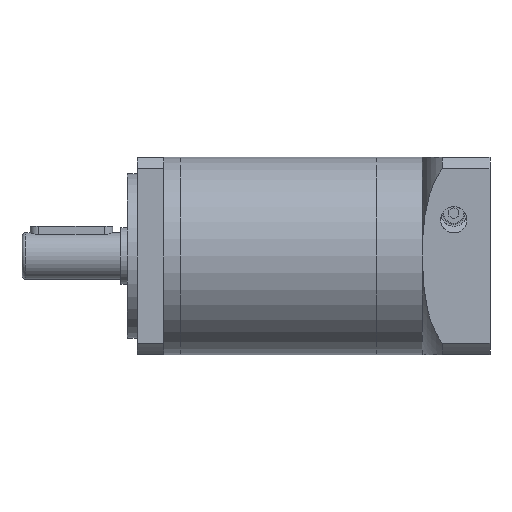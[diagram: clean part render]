
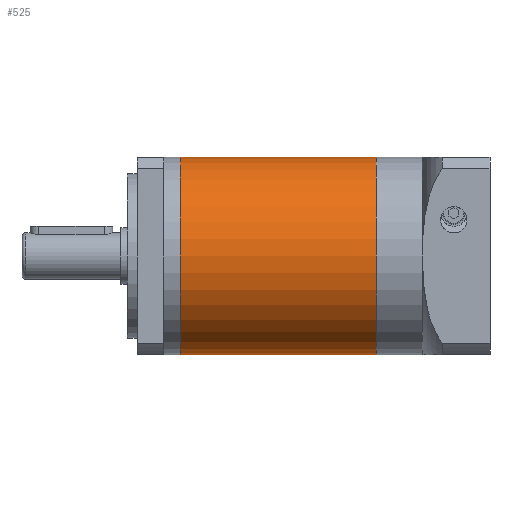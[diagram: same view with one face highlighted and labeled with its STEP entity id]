
A CAD part, left-side view. The second image highlights one B-rep face of the part: STEP entity #525.
In plain terms, the highlighted cylindrical face has radius 30 mm (diameter 60 mm), a partial arc.
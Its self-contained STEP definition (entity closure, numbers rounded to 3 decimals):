
#229 = CARTESIAN_POINT ( 'NONE',  ( 0., -75.5, -30. ) ) ;
#244 = DIRECTION ( 'NONE',  ( 0., 0., 1. ) ) ;
#525 = ADVANCED_FACE ( 'NONE', ( #2876 ), #598, .T. ) ;
#531 = VERTEX_POINT ( 'NONE', #4813 ) ;
#598 = CYLINDRICAL_SURFACE ( 'NONE', #3561, 30. ) ;
#697 = ORIENTED_EDGE ( 'NONE', *, *, #5046, .F. ) ;
#984 = DIRECTION ( 'NONE',  ( 0., 0., 1. ) ) ;
#1621 = ORIENTED_EDGE ( 'NONE', *, *, #4125, .F. ) ;
#1741 = AXIS2_PLACEMENT_3D ( 'NONE', #5319, #2804, #244 ) ;
#2024 = VERTEX_POINT ( 'NONE', #2240 ) ;
#2093 = ORIENTED_EDGE ( 'NONE', *, *, #2769, .T. ) ;
#2119 = CIRCLE ( 'NONE', #1741, 30. ) ;
#2141 = DIRECTION ( 'NONE',  ( 0., 1., 0. ) ) ;
#2240 = CARTESIAN_POINT ( 'NONE',  ( 0., -75.5, 30. ) ) ;
#2698 = CARTESIAN_POINT ( 'NONE',  ( 0., 0., 0. ) ) ;
#2769 = EDGE_CURVE ( 'NONE', #5082, #2024, #2119, .T. ) ;
#2804 = DIRECTION ( 'NONE',  ( 0., 1., 0. ) ) ;
#2876 = FACE_OUTER_BOUND ( 'NONE', #4997, .T. ) ;
#2960 = DIRECTION ( 'NONE',  ( 0., 1., 0. ) ) ;
#3023 = AXIS2_PLACEMENT_3D ( 'NONE', #4672, #2141, #5098 ) ;
#3109 = CIRCLE ( 'NONE', #3023, 30. ) ;
#3346 = EDGE_CURVE ( 'NONE', #2024, #531, #5218, .T. ) ;
#3561 = AXIS2_PLACEMENT_3D ( 'NONE', #2698, #3977, #984 ) ;
#3778 = LINE ( 'NONE', #3824, #4743 ) ;
#3824 = CARTESIAN_POINT ( 'NONE',  ( 0., 0., -30. ) ) ;
#3977 = DIRECTION ( 'NONE',  ( 0., 1., 0. ) ) ;
#4087 = ORIENTED_EDGE ( 'NONE', *, *, #3346, .T. ) ;
#4118 = VECTOR ( 'NONE', #5029, 1000. ) ;
#4125 = EDGE_CURVE ( 'NONE', #4878, #531, #3109, .T. ) ;
#4581 = CARTESIAN_POINT ( 'NONE',  ( 0., 0., 30. ) ) ;
#4672 = CARTESIAN_POINT ( 'NONE',  ( 0., -16., 0. ) ) ;
#4743 = VECTOR ( 'NONE', #2960, 1000. ) ;
#4813 = CARTESIAN_POINT ( 'NONE',  ( 0., -16., 30. ) ) ;
#4878 = VERTEX_POINT ( 'NONE', #4968 ) ;
#4968 = CARTESIAN_POINT ( 'NONE',  ( 0., -16., -30. ) ) ;
#4997 = EDGE_LOOP ( 'NONE', ( #697, #2093, #4087, #1621 ) ) ;
#5029 = DIRECTION ( 'NONE',  ( 0., 1., 0. ) ) ;
#5046 = EDGE_CURVE ( 'NONE', #5082, #4878, #3778, .T. ) ;
#5082 = VERTEX_POINT ( 'NONE', #229 ) ;
#5098 = DIRECTION ( 'NONE',  ( 0., 0., 1. ) ) ;
#5218 = LINE ( 'NONE', #4581, #4118 ) ;
#5319 = CARTESIAN_POINT ( 'NONE',  ( 0., -75.5, 0. ) ) ;
